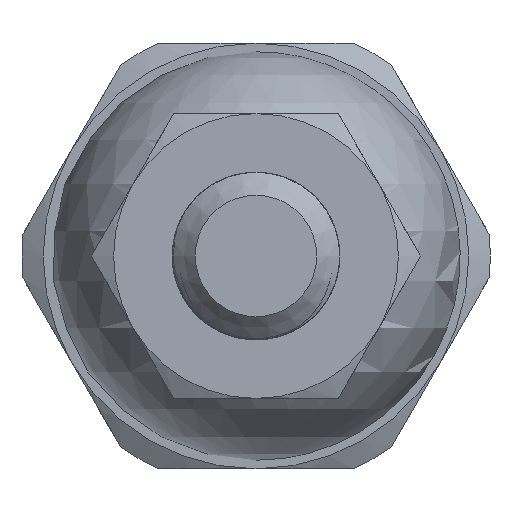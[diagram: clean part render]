
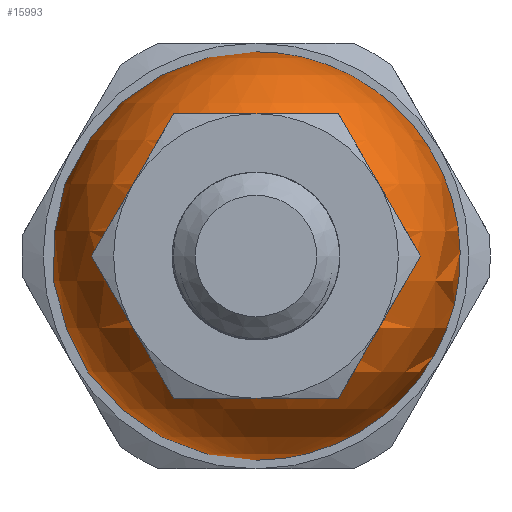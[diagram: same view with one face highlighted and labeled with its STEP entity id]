
A CAD part, left-side view. The second image highlights one B-rep face of the part: STEP entity #15993.
In plain terms, the highlighted spherical face has radius 12.186 mm.
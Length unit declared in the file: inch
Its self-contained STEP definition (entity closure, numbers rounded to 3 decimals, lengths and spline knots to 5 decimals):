
#26=SPHERICAL_SURFACE('',#16964,0.47975);
#3788=FACE_BOUND('',#5647,.T.);
#3789=FACE_BOUND('',#5648,.T.);
#5647=EDGE_LOOP('',(#14548));
#5648=EDGE_LOOP('',(#14549));
#6053=CIRCLE('',#16963,0.26399);
#6054=CIRCLE('',#16965,0.26399);
#7588=VERTEX_POINT('',#34462);
#7589=VERTEX_POINT('',#34465);
#9921=EDGE_CURVE('',#7588,#7588,#6053,.T.);
#9922=EDGE_CURVE('',#7589,#7589,#6054,.T.);
#14548=ORIENTED_EDGE('',*,*,#9921,.T.);
#14549=ORIENTED_EDGE('',*,*,#9922,.F.);
#15993=ADVANCED_FACE('',(#3788,#3789),#26,.T.);
#16963=AXIS2_PLACEMENT_3D('',#34463,#19918,#19919);
#16964=AXIS2_PLACEMENT_3D('',#34464,#19920,#19921);
#16965=AXIS2_PLACEMENT_3D('',#34466,#19922,#19923);
#19918=DIRECTION('center_axis',(1.,0.,0.));
#19919=DIRECTION('ref_axis',(0.,0.,-1.));
#19920=DIRECTION('center_axis',(0.,0.,1.));
#19921=DIRECTION('ref_axis',(1.,0.,0.));
#19922=DIRECTION('center_axis',(1.,0.,0.));
#19923=DIRECTION('ref_axis',(0.,0.,-1.));
#34462=CARTESIAN_POINT('',(46.65174,4.10049,0.));
#34463=CARTESIAN_POINT('Origin',(46.65174,3.8365,0.));
#34464=CARTESIAN_POINT('Origin',(47.05232,3.8365,0.));
#34465=CARTESIAN_POINT('',(47.45291,4.10049,0.));
#34466=CARTESIAN_POINT('Origin',(47.45291,3.8365,0.));
